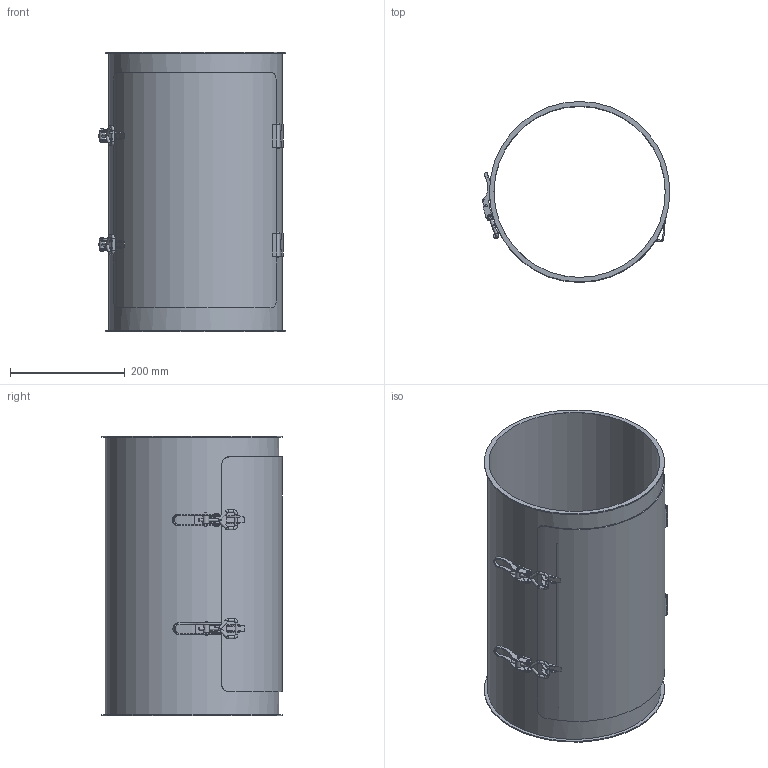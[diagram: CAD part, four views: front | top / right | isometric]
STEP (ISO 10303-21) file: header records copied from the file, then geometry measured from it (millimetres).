
FILE_DESCRIPTION((''),'2;1');
FILE_NAME('U:\Wolfgang\Marcel-3D\fertig\Kapitel 4\3021142.stp','2011-04-21T08:22:17',('TK1'),(''),'Autodesk Inventor 2010','Autodesk Inventor 2010','');
FILE_SCHEMA(('AUTOMOTIVE_DESIGN { 1 0 10303 214 1 1 1 1 }'));
Length unit declared in the file: millimetre
Products named in the file (14): 3021142; 3021142-Rohr; Gelenk3021142; Verschluss3021142; Verschluss30a; Verschluss1b; Verschluss1c; Verschluss1d; Verschluss1e; Deckel30; 3021142 Halterung2; 3021142 verschluss; 3021142-Deckel; 3021142 Halterung3
Assembly tree (19 placements, depth 3):
  3021142
    3021142-Rohr
    Gelenk3021142  x2
    Verschluss3021142  x2
      Verschluss30a
      Verschluss1b
      Verschluss1c
      Verschluss1d
      Verschluss1e
    Deckel30
      3021142 Halterung2  x2
      3021142 verschluss  x2
      3021142-Deckel
    3021142 Halterung3  x2
Bounding box: 327.67 x 315 x 488 mm (x, y, z)
Volume: 1067791.2 mm3; surface area: 1081311.7 mm2
Topology: 22 solids, 22 shells, 336 faces, 803 edges, 519 vertices
Faces by surface type: plane 159, cylinder 148, torus 18, bspline 7, sphere 4
Full cylindrical faces by diameter (mm): 2 x8, 4 x8, 5 x12, 6 x12, 6.2 x4, 10 x2, 299 x1, 303 x1, 315 x2
Entity records: 5681 total; most frequent: CARTESIAN_POINT 1176, DIRECTION 922, ORIENTED_EDGE 770, EDGE_CURVE 385, AXIS2_PLACEMENT_3D 356, VERTEX_POINT 270, EDGE_LOOP 243, VECTOR 210
